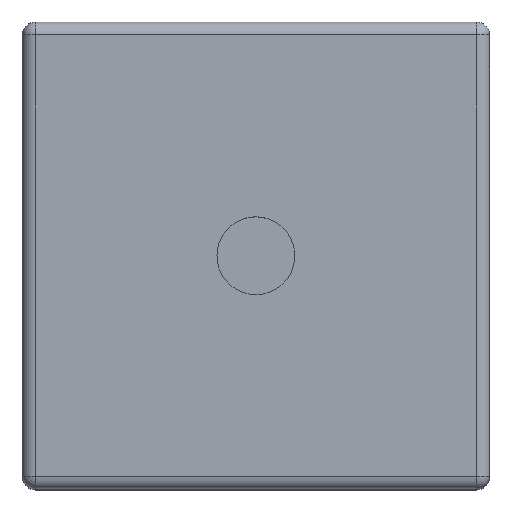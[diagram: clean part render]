
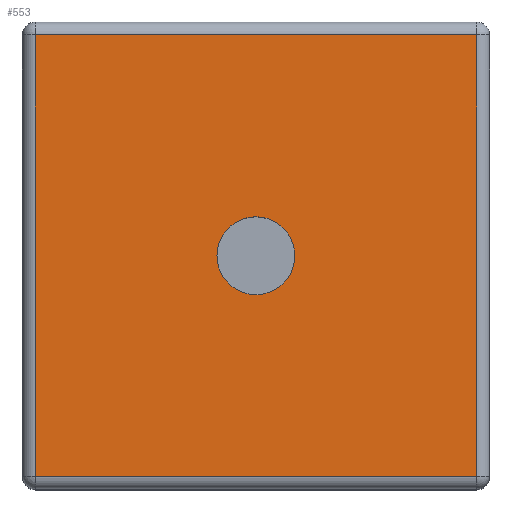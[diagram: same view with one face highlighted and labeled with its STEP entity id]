
A CAD part, top view. The second image highlights one B-rep face of the part: STEP entity #553.
In plain terms, the highlighted planar face has unit normal (0, 0, 1).
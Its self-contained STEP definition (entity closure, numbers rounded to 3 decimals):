
#183 = VERTEX_POINT('',#184);
#184 = CARTESIAN_POINT('',(0.5,0.5,18.));
#191 = EDGE_CURVE('',#183,#192,#194,.T.);
#192 = VERTEX_POINT('',#193);
#193 = CARTESIAN_POINT('',(0.5,17.5,18.));
#194 = LINE('',#195,#196);
#195 = CARTESIAN_POINT('',(0.5,0.,18.));
#196 = VECTOR('',#197,1.);
#197 = DIRECTION('',(0.,1.,0.));
#553 = ADVANCED_FACE('',(#554,#579),#590,.T.);
#554 = FACE_BOUND('',#555,.T.);
#555 = EDGE_LOOP('',(#556,#557,#565,#573));
#556 = ORIENTED_EDGE('',*,*,#191,.F.);
#557 = ORIENTED_EDGE('',*,*,#558,.T.);
#558 = EDGE_CURVE('',#183,#559,#561,.T.);
#559 = VERTEX_POINT('',#560);
#560 = CARTESIAN_POINT('',(17.5,0.5,18.));
#561 = LINE('',#562,#563);
#562 = CARTESIAN_POINT('',(0.,0.5,18.));
#563 = VECTOR('',#564,1.);
#564 = DIRECTION('',(1.,0.,0.));
#565 = ORIENTED_EDGE('',*,*,#566,.T.);
#566 = EDGE_CURVE('',#559,#567,#569,.T.);
#567 = VERTEX_POINT('',#568);
#568 = CARTESIAN_POINT('',(17.5,17.5,18.));
#569 = LINE('',#570,#571);
#570 = CARTESIAN_POINT('',(17.5,0.,18.));
#571 = VECTOR('',#572,1.);
#572 = DIRECTION('',(0.,1.,0.));
#573 = ORIENTED_EDGE('',*,*,#574,.F.);
#574 = EDGE_CURVE('',#192,#567,#575,.T.);
#575 = LINE('',#576,#577);
#576 = CARTESIAN_POINT('',(0.,17.5,18.));
#577 = VECTOR('',#578,1.);
#578 = DIRECTION('',(1.,0.,0.));
#579 = FACE_BOUND('',#580,.T.);
#580 = EDGE_LOOP('',(#581));
#581 = ORIENTED_EDGE('',*,*,#582,.F.);
#582 = EDGE_CURVE('',#583,#583,#585,.T.);
#583 = VERTEX_POINT('',#584);
#584 = CARTESIAN_POINT('',(10.495,8.995,18.));
#585 = CIRCLE('',#586,1.5);
#586 = AXIS2_PLACEMENT_3D('',#587,#588,#589);
#587 = CARTESIAN_POINT('',(8.995,8.995,18.));
#588 = DIRECTION('',(0.,0.,1.));
#589 = DIRECTION('',(1.,0.,0.));
#590 = PLANE('',#591);
#591 = AXIS2_PLACEMENT_3D('',#592,#593,#594);
#592 = CARTESIAN_POINT('',(0.,0.,18.));
#593 = DIRECTION('',(0.,0.,1.));
#594 = DIRECTION('',(1.,0.,0.));
